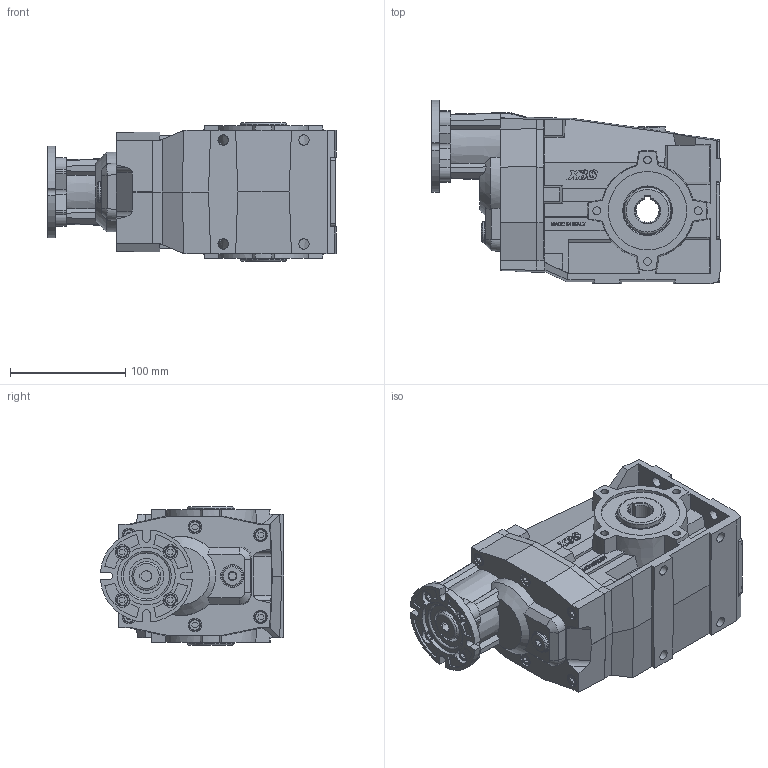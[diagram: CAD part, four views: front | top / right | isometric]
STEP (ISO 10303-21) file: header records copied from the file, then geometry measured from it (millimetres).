
FILE_DESCRIPTION( ( 'Unknown' ), '1' );
FILE_NAME( 'E:/services/configuratordownloads/customers/HYDROMEC/X/download/B733EE3813352FBB5104447EFF8A521/STEP/B733EE3813352FBB5104447EFF8A521.3d.stp', 'Unknown', ( 'Unknown' ), ( 'Unknown' ), 'PSStep 10.1', 'Unknown', ' ' );
FILE_SCHEMA( ( 'AUTOMOTIVE_DESIGN { 1 0 10303 214 1 1 1 1 }' ) );
Length unit declared in the file: millimetre
Products named in the file (1): X3S8800
Bounding box: 250 x 158.77 x 120 mm (x, y, z)
Volume: 2420643.2 mm3; surface area: 194646.5 mm2
Topology: 1 solids, 14 shells, 1015 faces, 2584 edges, 1706 vertices
Faces by surface type: plane 746, cylinder 114, cone 99, extrusion 32, torus 22, bspline 2
Full cylindrical faces by diameter (mm): 5 x10, 6.647 x8, 7 x4, 9 x4, 9.9 x4, 10 x14, 12.5 x4, 13.5 x1, 18 x1, 19 x1, 20 x1, 23 x1, 25 x1, 30 x1, 40 x2, 40.05 x2, 68 x2
Entity records: 39094 total; most frequent: CARTESIAN_POINT 7202, ORIENTED_EDGE 4788, DIRECTION 4659, EDGE_CURVE 2394, VECTOR 1763, LINE 1731, VERTEX_POINT 1654, AXIS2_PLACEMENT_3D 1448
